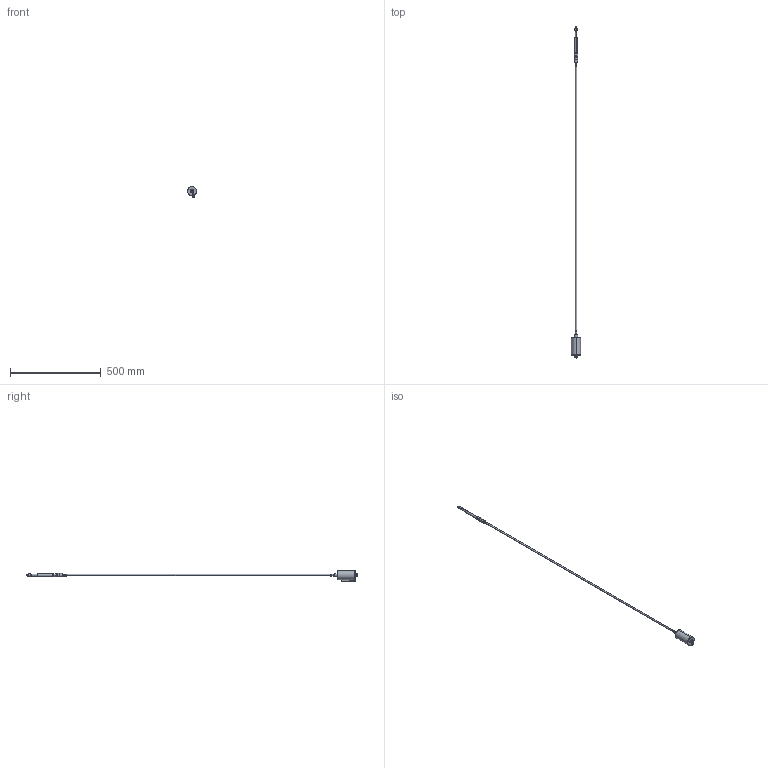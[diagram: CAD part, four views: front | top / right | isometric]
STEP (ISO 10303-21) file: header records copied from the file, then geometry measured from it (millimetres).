
FILE_DESCRIPTION (( 'STEP AP203' ), '1' );
FILE_NAME ('HIX1-S-6-H-M35U-1-4-K-S-0-6-G04.STEP', '2021-02-11T09:30:30', ( '' ), ( '' ), 'SwSTEP 2.0', 'SolidWorks 2021', '' );
FILE_SCHEMA (( 'CONFIG_CONTROL_DESIGN' ));
Length unit declared in the file: millimetre
Products named in the file (1): HIX1-S-6-H-M35U-1-4-K-S-0-6-G04
Bounding box: 49.98 x 1830.6 x 59.69 mm (x, y, z)
Surface area: 71369.2 mm2 (no closed solid volume)
Topology: 0 solids, 37 shells, 149 faces, 551 edges, 412 vertices
Faces by surface type: cylinder 74, plane 41, cone 20, bspline 10, torus 2, sphere 2
Entity records: 6345 total; most frequent: CARTESIAN_POINT 1626, DIRECTION 1050, ORIENTED_EDGE 766, EDGE_CURVE 551, VERTEX_POINT 412, AXIS2_PLACEMENT_3D 402, CIRCLE 262, VECTOR 246
